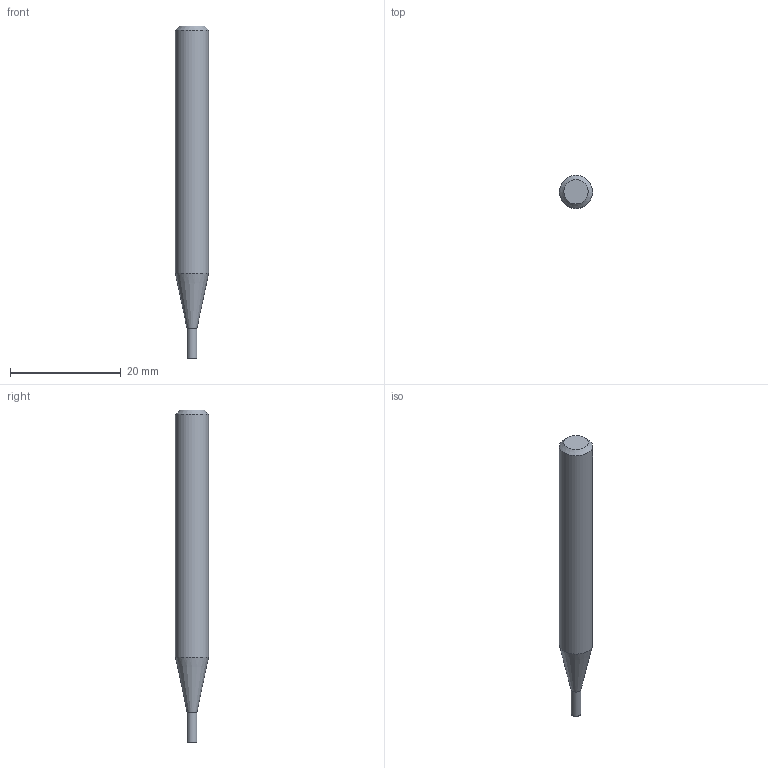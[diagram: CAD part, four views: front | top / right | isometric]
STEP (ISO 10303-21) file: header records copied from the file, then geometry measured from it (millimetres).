
FILE_DESCRIPTION((''),'2;1');
FILE_NAME('C:\Users\nsx150\AppData\Local\Temp\Mastercam 2021\AMKO7YXE3Q\TEMP.step','2024-03-15T17:54:52',(''),(''),'STEP Write','Mastercam 2021 ... CNC Software, Inc.','');
FILE_SCHEMA(('AUTOMOTIVE_DESIGN'));
Length unit declared in the file: millimetre
Products named in the file (1): None
Bounding box: 6 x 6 x 60 mm (x, y, z)
Volume: 1402.1 mm3; surface area: 1023.5 mm2
Topology: 2 solids, 2 shells, 8 faces, 10 edges, 6 vertices
Faces by surface type: plane 4, cylinder 2, cone 2
Full cylindrical faces by diameter (mm): 1.8 x1, 6 x1
Entity records: 190 total; most frequent: DIRECTION 32, CARTESIAN_POINT 22, AXIS2_PLACEMENT_3D 16, ORIENTED_EDGE 12, EDGE_LOOP 12, STYLED_ITEM 11, ADVANCED_FACE 8, VERTEX_POINT 6
